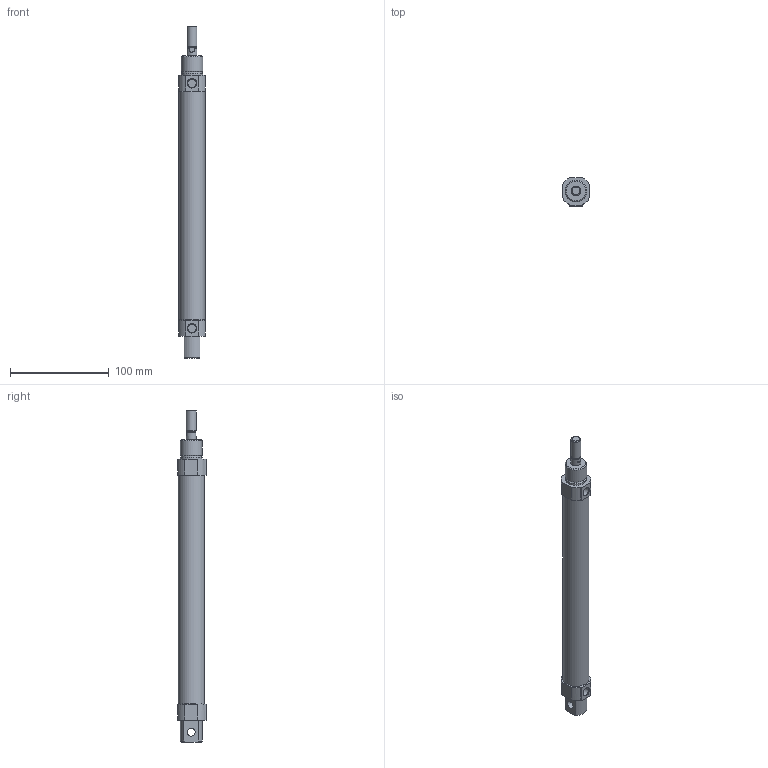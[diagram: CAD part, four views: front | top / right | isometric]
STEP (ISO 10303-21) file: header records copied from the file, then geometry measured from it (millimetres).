
FILE_DESCRIPTION((''),'2;1');
FILE_NAME('I:\3D電子目錄\氣缸\SDA\SDA25\SDA25\SDA25x200.stp','2007-08-06T10:33:07',('Administrator'),(''),'Autodesk Inventor 2008','Autodesk Inventor 2008','');
FILE_SCHEMA(('AUTOMOTIVE_DESIGN { 1 0 10303 214 1 1 1 1 }'));
Length unit declared in the file: millimetre
Products named in the file (1): SDA25X200
Bounding box: 27 x 28.5 x 336 mm (x, y, z)
Volume: 165286.2 mm3; surface area: 28738 mm2
Topology: 1 solids, 1 shells, 62 faces, 146 edges, 94 vertices
Faces by surface type: plane 30, cylinder 19, cone 10, bspline 2, torus 1
Full cylindrical faces by diameter (mm): 8 x1, 8.5 x2, 8.6 x1, 10 x2, 22 x2, 26.6 x1
Entity records: 1718 total; most frequent: CARTESIAN_POINT 307, DIRECTION 298, ORIENTED_EDGE 258, EDGE_CURVE 129, AXIS2_PLACEMENT_3D 116, VERTEX_POINT 93, EDGE_LOOP 88, VECTOR 66
